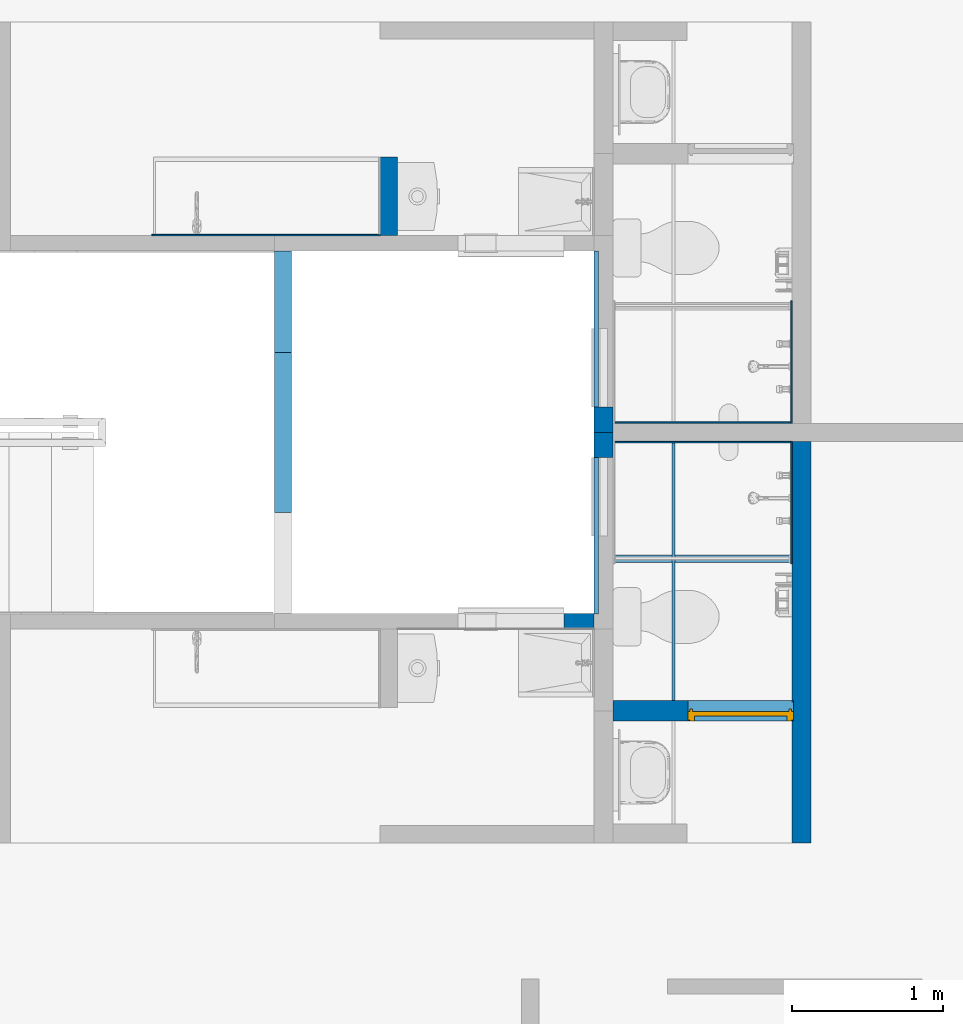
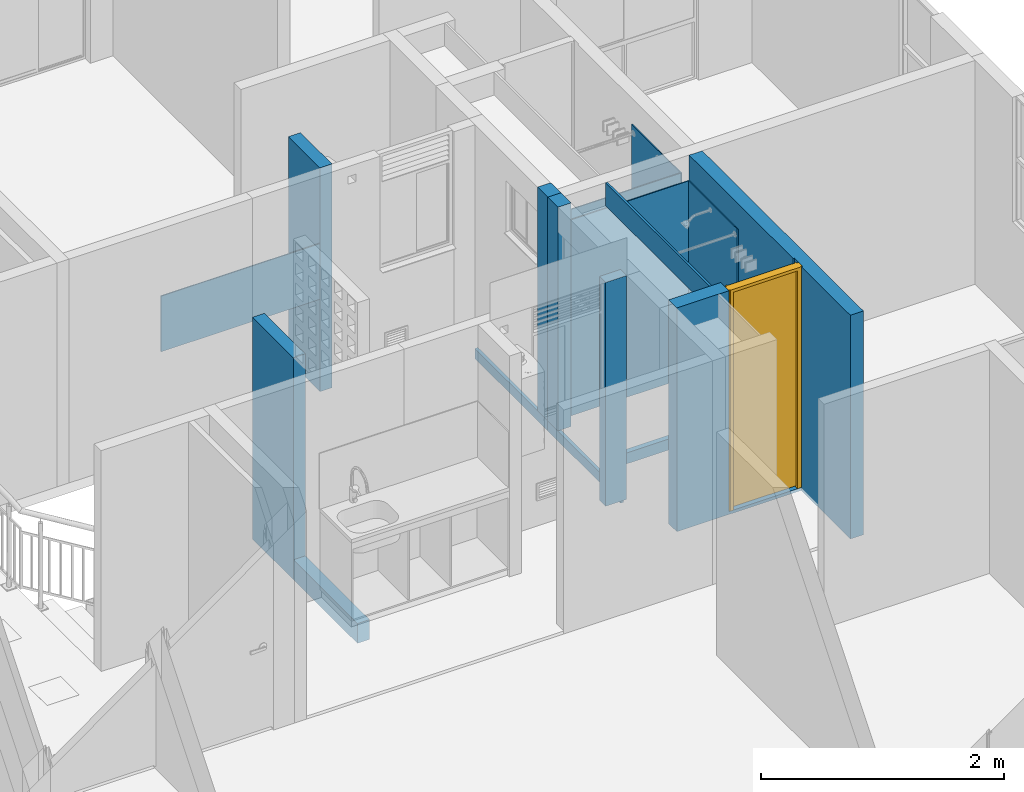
# One storey, part 14 of 47: 17 walls, 1 door, 2 openings.
"""IFC4 building model written with IfcOpenShell, lengths in metres."""

from ifc_helpers import new_model, entity, si_unit, converted_unit, derived_unit, direction, frame, origin, place, context, subcontext, project, spatial, indexed_curve, outline, extrude, polygons, source, transform, mapped, material, constituent, constituent_set, type_object, type_shapes, element, fill, save


model = new_model("IFC4")

# Units and contexts
model_context = context("Model", 3, precision=1e-05, world=origin(), true_north=direction((6.123031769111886e-17, 1.0)))
body_context = subcontext(model_context, "Body", "Model", "MODEL_VIEW")
ifc_project = project(units=[si_unit("LENGTHUNIT", "METRE"), si_unit("AREAUNIT", "SQUARE_METRE"), si_unit("VOLUMEUNIT", "CUBIC_METRE"), converted_unit("PLANEANGLEUNIT", "DEGREE", entity("IfcRatioMeasure", 0.017453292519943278), si_unit("PLANEANGLEUNIT", "RADIAN"), dimensions=[0, 0, 0, 0, 0, 0, 0]), si_unit("MASSUNIT", "GRAM", prefix="KILO"), derived_unit("MASSDENSITYUNIT", [(si_unit("MASSUNIT", "GRAM", prefix="KILO"), 1), (si_unit("LENGTHUNIT", "METRE"), -3)]), derived_unit("IONCONCENTRATIONUNIT", [(si_unit("MASSUNIT", "GRAM", prefix="KILO"), 1), (si_unit("LENGTHUNIT", "METRE"), -3)]), derived_unit("MOMENTOFINERTIAUNIT", [(si_unit("LENGTHUNIT", "METRE"), 4)]), si_unit("TIMEUNIT", "SECOND"), si_unit("FREQUENCYUNIT", "HERTZ"), si_unit("THERMODYNAMICTEMPERATUREUNIT", "DEGREE_CELSIUS"), derived_unit("THERMALTRANSMITTANCEUNIT", [(si_unit("MASSUNIT", "GRAM", prefix="KILO"), 1), (si_unit("THERMODYNAMICTEMPERATUREUNIT", "KELVIN"), -1), (si_unit("TIMEUNIT", "SECOND"), -3)]), derived_unit("THERMALCONDUCTANCEUNIT", [(si_unit("MASSUNIT", "GRAM", prefix="KILO"), 1), (si_unit("THERMODYNAMICTEMPERATUREUNIT", "KELVIN"), -1), (si_unit("TIMEUNIT", "SECOND"), -3), (si_unit("LENGTHUNIT", "METRE"), 1)]), derived_unit("VOLUMETRICFLOWRATEUNIT", [(si_unit("LENGTHUNIT", "METRE"), 3), (si_unit("TIMEUNIT", "SECOND"), -1)]), derived_unit("MASSFLOWRATEUNIT", [(si_unit("MASSUNIT", "GRAM", prefix="KILO"), 1), (si_unit("TIMEUNIT", "SECOND"), -1)]), derived_unit("ROTATIONALFREQUENCYUNIT", [(si_unit("TIMEUNIT", "SECOND"), -1)]), si_unit("ELECTRICCURRENTUNIT", "AMPERE"), si_unit("ELECTRICVOLTAGEUNIT", "VOLT"), si_unit("POWERUNIT", "WATT"), si_unit("FORCEUNIT", "NEWTON", prefix="KILO"), si_unit("ILLUMINANCEUNIT", "LUX"), si_unit("LUMINOUSFLUXUNIT", "LUMEN"), si_unit("LUMINOUSINTENSITYUNIT", "CANDELA"), derived_unit("USERDEFINED", [(si_unit("MASSUNIT", "GRAM", prefix="KILO"), -1), (si_unit("LENGTHUNIT", "METRE"), -2), (si_unit("TIMEUNIT", "SECOND"), 3), (si_unit("LUMINOUSFLUXUNIT", "LUMEN"), 1)]), derived_unit("USERDEFINED", [(si_unit("MASSUNIT", "GRAM", prefix="KILO"), 1), (si_unit("TIMEUNIT", "SECOND"), -3), (si_unit("LENGTHUNIT", "METRE"), 3), (si_unit("ELECTRICCURRENTUNIT", "AMPERE"), -2)]), derived_unit("SOUNDPOWERUNIT", [(si_unit("MASSUNIT", "GRAM", prefix="KILO"), 1), (si_unit("TIMEUNIT", "SECOND"), -3), (si_unit("LENGTHUNIT", "METRE"), 2)]), derived_unit("SOUNDPRESSUREUNIT", [(si_unit("MASSUNIT", "GRAM", prefix="KILO"), 1), (si_unit("LENGTHUNIT", "METRE"), -1), (si_unit("TIMEUNIT", "SECOND"), -2)]), derived_unit("LINEARVELOCITYUNIT", [(si_unit("LENGTHUNIT", "METRE"), 1), (si_unit("TIMEUNIT", "SECOND"), -1)]), si_unit("PRESSUREUNIT", "PASCAL"), derived_unit("USERDEFINED", [(si_unit("MASSUNIT", "GRAM", prefix="KILO"), 1), (si_unit("LENGTHUNIT", "METRE"), -2), (si_unit("TIMEUNIT", "SECOND"), -2)]), derived_unit("LINEARFORCEUNIT", [(si_unit("MASSUNIT", "GRAM", prefix="KILO"), 1), (si_unit("TIMEUNIT", "SECOND"), -2)]), derived_unit("PLANARFORCEUNIT", [(si_unit("MASSUNIT", "GRAM", prefix="KILO"), 1), (si_unit("LENGTHUNIT", "METRE"), -1), (si_unit("TIMEUNIT", "SECOND"), -2)]), derived_unit("SPECIFICHEATCAPACITYUNIT", [(si_unit("THERMODYNAMICTEMPERATUREUNIT", "KELVIN"), -1), (si_unit("LENGTHUNIT", "METRE"), 2), (si_unit("TIMEUNIT", "SECOND"), -2)]), derived_unit("HEATINGVALUEUNIT", [(si_unit("LENGTHUNIT", "METRE"), 2), (si_unit("TIMEUNIT", "SECOND"), -2)]), derived_unit("VAPORPERMEABILITYUNIT", [(si_unit("LENGTHUNIT", "METRE"), -1), (si_unit("TIMEUNIT", "SECOND"), 1)]), derived_unit("DYNAMICVISCOSITYUNIT", [(si_unit("MASSUNIT", "GRAM", prefix="KILO"), 1), (si_unit("TIMEUNIT", "SECOND"), -1), (si_unit("LENGTHUNIT", "METRE"), -1)]), derived_unit("THERMALEXPANSIONCOEFFICIENTUNIT", [(si_unit("THERMODYNAMICTEMPERATUREUNIT", "KELVIN"), -1)]), derived_unit("MODULUSOFELASTICITYUNIT", [(si_unit("MASSUNIT", "GRAM", prefix="KILO"), 1), (si_unit("LENGTHUNIT", "METRE"), -1), (si_unit("TIMEUNIT", "SECOND"), -2)]), derived_unit("ISOTHERMALMOISTURECAPACITYUNIT", [(si_unit("LENGTHUNIT", "METRE"), 3), (si_unit("MASSUNIT", "GRAM", prefix="KILO"), -1)]), derived_unit("MOISTUREDIFFUSIVITYUNIT", [(si_unit("TIMEUNIT", "SECOND"), -1), (si_unit("LENGTHUNIT", "METRE"), 2)])], contexts=[model_context])

# Site, building, storey
site_placement = place(None, origin())
site = spatial("IfcSite", under=ifc_project, at=site_placement, Name="Default", CompositionType="ELEMENT")
building_placement = place(site_placement, origin())
building = spatial("IfcBuilding", under=site, at=building_placement, CompositionType="ELEMENT")
storey_placement = place(building_placement, frame((0.0, 0.0, 11.750000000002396)))
storey = spatial("IfcBuildingStorey", under=building, at=storey_placement, Name="Nivel 6", CompositionType="ELEMENT", Elevation=11.750000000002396)

# Walls
ifc_material_1 = material(Name="Ladrillo claro (Aire)", Category="Materials")
wall_type_1 = type_object("IfcWallType", Name="Basic Wall:B2010 - 0.115m - Muro interior en mampostería - Ladrillo", PredefinedType="STANDARD")
wall_1_placement = place(storey_placement, frame((12.500000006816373, -5.897500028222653, -1.1750000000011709), z_axis=(0.0, 0.0, 1.0), x_axis=(0.0, 1.0, 0.0)))
element("IfcWall", 1, at=wall_1_placement, inside=storey, type_object=wall_type_1, material=ifc_material_1, Name="Basic Wall:B2010 - 0.115m - Muro interior en mampostería - Ladrillo", ObjectType="Basic Wall:B2010 - 0.115m - Muro interior en mampostería - Ladrillo", PredefinedType="NOTDEFINED", context=body_context, shape_type="SweptSolid", body=[
    extrude(outline(indexed_curve([(0.6719999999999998, 0.05749999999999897), (-1.0377476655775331e-16, 0.057499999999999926), (1.0377476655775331e-16, -0.057499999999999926), (0.672, -0.05750000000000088), (0.6719999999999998, 0.05749999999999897)], self_intersect=False)), origin(), (0.0, 0.0, 1.0), 2.230000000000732),
])
wall_2_placement = place(storey_placement, frame((12.500000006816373, -6.954905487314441, -1.1750000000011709), z_axis=(0.0, 0.0, 1.0), x_axis=(0.0, 1.0, 0.0)))
element("IfcWall", 2, at=wall_2_placement, inside=storey, type_object=wall_type_1, material=ifc_material_1, Name="Basic Wall:B2010 - 0.115m - Muro interior en mampostería - Ladrillo", ObjectType="Basic Wall:B2010 - 0.115m - Muro interior en mampostería - Ladrillo", PredefinedType="NOTDEFINED", context=body_context, shape_type="SweptSolid", body=[
    extrude(outline(indexed_curve([(1.057405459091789, 0.057499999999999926), (-1.1776912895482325e-16, 0.057499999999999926), (1.1776912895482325e-16, -0.057499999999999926), (1.0574054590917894, -0.057499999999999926), (1.057405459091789, 0.057499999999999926)], self_intersect=False)), origin(), (0.0, 0.0, 1.0), 0.20000000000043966),
])

# Wall, opening
ifc_material_2 = material(Name="Pañete", Category="Materials")
ifc_constituent_1 = constituent(ifc_material_2, Name="Pañete", Category="Materials")
ifc_constituent_2 = constituent(ifc_material_1, Name="Ladrillo claro (Aire)", Category="Materials")
ifc_constituent_set_1 = constituent_set(constituents=[ifc_constituent_1, ifc_constituent_2], Name="Basic Wall:B2010 - 0.115m - Muro interior en mampostería - Ladrillo + Pañete")
wall_type_2 = type_object("IfcWallType", Name="Basic Wall:B2010 - 0.115m - Muro interior en mampostería - Ladrillo + Pañete", PredefinedType="STANDARD", material=ifc_constituent_set_1)
wall_3_placement = place(storey_placement, frame((15.92999894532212, -9.139999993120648, 0.0), z_axis=(0.0, 0.0, 1.0), x_axis=(0.0, 1.0, 0.0)))
wall_3 = element("IfcWall", 3, at=wall_3_placement, inside=storey, type_object=wall_type_2, material=ifc_constituent_set_1, Name="Basic Wall:B2010 - 0.115m - Muro interior en mampostería - Ladrillo + Pañete", ObjectType="Basic Wall:B2010 - 0.115m - Muro interior en mampostería - Ladrillo + Pañete", PredefinedType="NOTDEFINED", context=body_context, shape_type="SweptSolid", body=[
    extrude(outline(indexed_curve([(-0.7550000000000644, -1.4629166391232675), (1.4949999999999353, -1.4629166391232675), (1.4949999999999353, 0.25208332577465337), (-0.7249999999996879, 0.25208332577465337), (-0.7249999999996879, 0.38708332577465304), (1.4949999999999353, 0.38708332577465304), (1.4949999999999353, 1.1920833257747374), (-0.7550000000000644, 1.1920833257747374), (-0.7550000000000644, 0.38708332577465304), (-0.7550000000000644, 0.25208332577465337), (-0.7550000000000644, -0.6629166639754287), (-0.7550000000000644, -0.7129166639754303), (-0.7550000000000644, -1.4629166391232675)], self_intersect=False)), frame((1.1920833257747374, 0.06250000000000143, 0.7550000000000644), z_axis=(0.0, -1.0, 0.0), x_axis=(0.0, 0.0, 1.0)), (0.0, 0.0, 1.0), 0.009999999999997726),
    extrude(outline(indexed_curve([(-0.05750000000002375, -1.3274999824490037), (0.0574999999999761, -1.3274999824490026), (0.05750000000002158, 1.3274999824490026), (-0.05749999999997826, 1.3274999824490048), (-0.05750000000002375, -1.3274999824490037)], self_intersect=False)), frame((1.3274999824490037, -0.00499999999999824, 0.0), z_axis=(0.0, 0.0, 1.0), x_axis=(0.0, 1.0, 0.0)), (0.0, 0.0, 1.0), 2.2499999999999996),
])
opening_1_placement = place(wall_3_placement, origin())
element("IfcOpeningElement", 4, at=opening_1_placement, cuts=wall_3, Name="Basic Wall:B2010 - 0.115m - Muro interior en mampostería - Ladrillo + Pañete", PredefinedType="OPENING", context=body_context, shape_type="SweptSolid", body=[
    extrude(outline(indexed_curve([(-0.06749999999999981, -1.1099999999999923), (0.06749999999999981, -1.1099999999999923), (0.06749999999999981, 1.1099999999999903), (-0.06749999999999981, 1.1099999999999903), (-0.06749999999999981, -1.1099999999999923)], self_intersect=False)), frame((0.8725000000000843, 0.05249999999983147, 1.140000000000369), z_axis=(0.0, 1.0, 0.0), x_axis=(-1.0, 0.0, 0.0)), (0.0, 0.0, 1.0), 0.7000000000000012),
])

# Wall, opening, door
ifc_constituent_3 = constituent(ifc_material_2, Name="Pañete", Category="Materials")
ifc_material_3 = material(Name="LADRILLO CLARO", Category="Materials")
ifc_constituent_4 = constituent(ifc_material_3, Name="LADRILLO CLARO", Category="Materials")
ifc_constituent_5 = constituent(ifc_material_2, Name="Pañete (2)", Category="Materials")
ifc_constituent_set_2 = constituent_set(constituents=[ifc_constituent_3, ifc_constituent_4, ifc_constituent_5], Name="Basic Wall:B2010 - 0.115m - MI  mampostería no estructural - Pañete + Ladrillo + Pañete")
wall_type_3 = type_object("IfcWallType", Name="Basic Wall:B2010 - 0.115m - MI  mampostería no estructural - Pañete + Ladrillo + Pañete", PredefinedType="STANDARD", material=ifc_constituent_set_2)
wall_4_placement = place(storey_placement, frame((14.68250000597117, -8.267499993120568, 0.0)))
wall_4 = element("IfcWall", 5, at=wall_4_placement, inside=storey, type_object=wall_type_3, material=ifc_constituent_set_2, Name="Basic Wall:B2010 - 0.115m - MI  mampostería no estructural - Pañete + Ladrillo + Pañete", ObjectType="Basic Wall:B2010 - 0.115m - MI  mampostería no estructural - Pañete + Ladrillo + Pañete", PredefinedType="NOTDEFINED", context=body_context, shape_type="SweptSolid", body=[
    extrude(outline(indexed_curve([(-0.7600000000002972, -0.5599992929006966), (1.4900000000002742, -0.5599992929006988), (1.4900000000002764, -0.06500035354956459), (-0.7299999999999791, -0.06500035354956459), (-0.729999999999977, 0.6249996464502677), (-0.760000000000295, 0.6249996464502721), (-0.7600000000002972, -0.5599992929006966)], self_intersect=False)), frame((0.559999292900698, 0.05750000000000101, 0.760000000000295), z_axis=(0.0, 1.0, 0.0), x_axis=(0.0, 0.0, 1.0)), (0.0, 0.0, 1.0), 0.009999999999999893),
    extrude(outline(indexed_curve([(-1.1325000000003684, -0.5199994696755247), (1.117500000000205, -0.5199994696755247), (1.117500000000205, -0.12999946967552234), (1.117500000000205, -0.10999946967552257), (1.117500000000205, -0.025000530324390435), (-1.1025000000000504, -0.025000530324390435), (-1.1025000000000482, 0.6649994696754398), (-1.1325000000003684, 0.6649994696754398), (-1.1325000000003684, -0.5199994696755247)], self_intersect=False)), frame((0.5199994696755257, -0.06749999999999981, 1.1325000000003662), z_axis=(0.0, 1.0, 0.0), x_axis=(0.0, 0.0, 1.0)), (0.0, 0.0, 1.0), 0.009999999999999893),
    extrude(outline(indexed_curve([(-0.7600000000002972, -0.5633326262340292), (1.4900000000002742, -0.5633326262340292), (1.4900000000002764, -0.068333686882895), (-0.7299999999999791, -0.068333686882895), (-0.729999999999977, 0.631666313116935), (-0.760000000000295, 0.631666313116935), (-0.7600000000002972, -0.5633326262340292)], self_intersect=False)), frame((0.5633326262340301, -0.05750000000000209, 0.760000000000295), z_axis=(0.0, 1.0, 0.0), x_axis=(0.0, 0.0, 1.0)), (0.0, 0.0, 1.0), 0.11499999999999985),
])
opening_2_placement = place(wall_4_placement, frame((0.49499893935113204, -0.06749999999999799, 0.0299999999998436)))
opening_2 = element("IfcOpeningElement", 6, at=opening_2_placement, cuts=wall_4, Name="C1030 - Puerta batiente - Madera+Aluminio:C1030 - 0.70 x 2.22 - Puerta batiente - Madera+ Metal:1", PredefinedType="OPENING", context=body_context, shape_type="SweptSolid", body=[
    extrude(outline(indexed_curve([(-2.8961849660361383e-19, 1.218225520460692e-15), (2.2199999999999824, 1.218225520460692e-15), (2.2199999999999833, 0.7000000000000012), (1.438182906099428e-16, 0.7000000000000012), (-2.8961849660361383e-19, 1.218225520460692e-15)], self_intersect=False)), frame((0.0, 0.0, 0.0), z_axis=(0.0, 1.0, 0.0), x_axis=(0.0, 0.0, 1.0)), (0.0, 0.0, 1.0), 0.13499999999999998),
])
ifc_material_4 = material(Name="<Unnamed>")
door_type = type_object("IfcDoorType", Name="C1030 - Puerta batiente - Madera+Aluminio:C1030 - 0.70 x 2.22 - Puerta batiente - Madera+ Metal", OperationType="SINGLE_SWING_RIGHT", PredefinedType="DOOR", material=ifc_material_4)
shared_shape = source(origin(), body_context, "Body", "Tessellation", [
    polygons([(0.030000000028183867, 0.06499999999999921, 0.009880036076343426), (0.6699999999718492, 0.06499999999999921, 0.009880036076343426), (0.6699999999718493, 0.0324999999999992, 0.009880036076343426), (0.030000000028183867, 0.0324999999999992, 0.009880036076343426), (0.030000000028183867, 0.06499999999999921, 2.2050000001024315), (0.030000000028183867, 0.0324999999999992, 2.2050000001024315), (0.6699999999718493, 0.0324999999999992, 2.2050000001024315), (0.6699999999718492, 0.06499999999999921, 2.2050000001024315)], [[[1, 2, 3, 4]], [[5, 1, 4, 6]], [[6, 4, 3, 7]], [[7, 3, 2, 8]], [[8, 2, 1, 5]], [[5, 6, 7, 8]]], closed=True),
    polygons([(0.015000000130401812, 0.0649999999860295, 0.0), (0.015000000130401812, 0.07999999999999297, 0.0), (0.030000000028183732, 0.07999999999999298, 0.0), (0.030000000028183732, 0.04000000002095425, 0.0), (0.045000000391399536, 0.04000000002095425, 0.0), (0.045000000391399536, -1.6919798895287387e-17, 0.0), (0.015000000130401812, -5.075939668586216e-17, 0.0), (0.015000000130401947, 0.007499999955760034, 0.0), (1.651372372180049e-14, 0.0074999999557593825, 0.0), (1.651372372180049e-14, 0.0649999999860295, 0.0), (1.651372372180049e-14, 0.0074999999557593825, 2.2199999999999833), (0.015000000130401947, 0.007499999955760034, 2.2199999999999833), (0.015000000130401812, 0.0649999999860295, 2.2199999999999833), (1.651372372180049e-14, 0.0649999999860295, 2.2199999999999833), (0.6849999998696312, 0.06499999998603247, 0.0), (0.7000000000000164, 0.06499999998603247, 0.0), (0.7000000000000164, 0.007499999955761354, 0.0), (0.6849999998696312, 0.007499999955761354, 0.0), (0.6849999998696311, 0.0, 0.0), (0.6549999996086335, 0.0, 0.0), (0.6549999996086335, 0.04000000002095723, 0.0), (0.6699999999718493, 0.04000000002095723, 0.0), (0.6699999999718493, 0.07999999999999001, 0.0), (0.6849999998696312, 0.07999999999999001, 0.0), (0.7000000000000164, 0.06499999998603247, 2.2199999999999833), (0.6849999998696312, 0.06499999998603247, 2.2199999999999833), (0.6849999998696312, 0.007499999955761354, 2.2199999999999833), (0.7000000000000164, 0.007499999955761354, 2.2199999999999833), (0.6549999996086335, 0.0, 2.189999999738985), (0.6549999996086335, 0.03250000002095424, 2.189999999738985), (0.6549999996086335, 0.03250000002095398, 2.2050000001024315), (0.6549999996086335, 0.04000000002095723, 2.2050000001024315), (0.045000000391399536, 0.04000000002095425, 2.2050000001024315), (0.045000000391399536, 0.03250000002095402, 2.2050000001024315), (0.045000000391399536, 0.032500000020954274, 2.189999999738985), (0.045000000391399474, -1.6919798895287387e-17, 2.189999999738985), (0.6699999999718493, 0.04000000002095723, 2.2050000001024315), (0.6699999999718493, 0.07249999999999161, 2.2050000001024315), (0.6699999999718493, 0.07249999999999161, 2.2199999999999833), (0.6699999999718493, 0.07999999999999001, 2.2199999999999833), (0.030000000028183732, 0.07999999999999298, 2.2199999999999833), (0.030000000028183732, 0.07249999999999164, 2.2199999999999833), (0.030000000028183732, 0.07249999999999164, 2.2050000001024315), (0.030000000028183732, 0.04000000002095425, 2.2050000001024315), (0.6849999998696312, 0.07999999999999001, 2.2199999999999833), (0.6849999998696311, 0.0, 2.2199999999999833), (0.015000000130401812, -5.075939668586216e-17, 2.2199999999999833), (0.015000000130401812, 0.07999999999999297, 2.2199999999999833)], [[[1, 2, 3, 4, 5, 6, 7, 8, 9, 10]], [[11, 9, 8, 12]], [[13, 1, 10, 14]], [[15, 16, 17, 18, 19, 20, 21, 22, 23, 24]], [[25, 16, 15, 26]], [[27, 18, 17, 28]], [[20, 29, 30, 31, 32, 21]], [[5, 33, 34, 35, 36, 6]], [[22, 37, 38, 39, 40, 23]], [[3, 41, 42, 43, 44, 4]], [[28, 17, 16, 25]], [[14, 10, 9, 11]], [[26, 15, 24, 45]], [[45, 24, 23, 40]], [[21, 32, 37, 22]], [[19, 46, 47, 7, 6, 36, 29, 20]], [[46, 19, 18, 27]], [[12, 8, 7, 47]], [[48, 2, 1, 13]], [[26, 45, 40, 39, 42, 41, 48, 13, 14, 11, 12, 47, 46, 27, 28, 25]], [[38, 37, 32, 31, 34, 33, 44, 43]], [[36, 35, 30, 29]], [[4, 44, 33, 5]], [[41, 3, 2, 48]], [[35, 34, 31, 30]], [[43, 42, 39, 38]]], closed=True),
])
type_shapes(door_type, [shared_shape])
door_placement = place(opening_2_placement, origin())
door = element("IfcDoor", 7, at=door_placement, inside=storey, type_object=door_type, material=ifc_material_4, Name="C1030 - Puerta batiente - Madera+Aluminio:C1030 - 0.70 x 2.22 - Puerta batiente - Madera+ Metal", ObjectType="C1030 - Puerta batiente - Madera+Aluminio:C1030 - 0.70 x 2.22 - Puerta batiente - Madera+ Metal", OperationType="NOTDEFINED", OverallHeight=2.2199999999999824, OverallWidth=0.7000000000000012, PredefinedType="DOOR", context=body_context, shape_type="MappedRepresentation", body=[
    mapped(shared_shape, transform((0.0, 0.0, 0.0), scale=1.0)),
])
fill(opening_2, door)

# Walls
ifc_material_5 = material(Name="PINTURA BLANCA PARA EXTERIORES", Category="Materials")
ifc_constituent_6 = constituent(ifc_material_5, Name="PINTURA BLANCA PARA EXTERIORES", Category="Materials")
ifc_material_6 = material(Name="Concreto - Fundido in situ", Category="Materials")
ifc_constituent_7 = constituent(ifc_material_6, Name="Concreto - Fundido in situ", Category="Materials")
ifc_constituent_set_3 = constituent_set(constituents=[ifc_constituent_6, ifc_constituent_7], Name="Basic Wall:B2010 - 0.10m - MI no estructural- Concreto + repello+ pintura blanca")
wall_type_4 = type_object("IfcWallType", Name="Basic Wall:B2010 - 0.10m - MI no estructural- Concreto + repello+ pintura blanca", PredefinedType="STANDARD", material=ifc_constituent_set_3)
wall_5_placement = place(storey_placement, frame((14.557500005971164, -7.675000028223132, 0.0), z_axis=(0.0, 0.0, 1.0), x_axis=(-1.0, 0.0, 0.0)))
element("IfcWall", 8, at=wall_5_placement, inside=storey, type_object=wall_type_4, material=ifc_constituent_set_3, Name="Basic Wall:B2010 - 0.10m - MI no estructural- Concreto + repello+ pintura blanca", ObjectType="Basic Wall:B2010 - 0.10m - MI no estructural- Concreto + repello+ pintura blanca", PredefinedType="NOTDEFINED", context=body_context, shape_type="SweptSolid", body=[
    extrude(outline(indexed_curve([(-0.0004999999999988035, -0.10000000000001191), (0.0005000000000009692, -0.10000000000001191), (0.0004999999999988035, 0.10000000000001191), (-0.0005000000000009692, 0.10000000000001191), (-0.0004999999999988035, -0.10000000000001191)], self_intersect=False)), frame((0.10000000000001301, -0.04999999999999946, 0.0), z_axis=(0.0, 0.0, 1.0), x_axis=(0.0, 1.0, 0.0)), (0.0, 0.0, 1.0), 2.2499999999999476),
    extrude(outline(indexed_curve([(-0.050000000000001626, -0.10000000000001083), (0.04999999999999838, -0.10000000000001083), (0.050000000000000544, 0.10000000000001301), (-0.04999999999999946, 0.10000000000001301), (-0.050000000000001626, -0.10000000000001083)], self_intersect=False)), frame((0.1000000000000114, 0.0004999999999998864, 0.0), z_axis=(0.0, 0.0, 1.0), x_axis=(0.0, -1.0, 0.0)), (0.0, 0.0, 1.0), 2.2499999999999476),
])
wall_type_5 = type_object("IfcWallType", Name="Basic Wall:B2010 - 0.115m - MI mampostería no estructural - Ladrillo", PredefinedType="STANDARD")
wall_6_placement = place(storey_placement, frame((13.200000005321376, -4.605000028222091, 0.0), z_axis=(0.0, 0.0, 1.0), x_axis=(0.0, -1.0, 0.0)))
element("IfcWall", 9, at=wall_6_placement, inside=storey, type_object=wall_type_5, material=ifc_material_3, Name="Basic Wall:B2010 - 0.115m - MI mampostería no estructural - Ladrillo", ObjectType="Basic Wall:B2010 - 0.115m - MI mampostería no estructural - Ladrillo", PredefinedType="NOTDEFINED", context=body_context, shape_type="SweptSolid", body=[
    extrude(outline(indexed_curve([(0.5195000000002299, 0.0574999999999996), (-2.0425946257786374e-16, 0.057499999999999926), (2.0425946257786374e-16, -0.057499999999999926), (0.5195000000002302, -0.057500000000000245), (0.5195000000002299, 0.0574999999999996)], self_intersect=False)), origin(), (0.0, 0.0, 1.0), 2.2500000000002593),
])
ifc_material_7 = material(Name="Ceramica 0.25m x 0.35m", Category="Materials")
wall_type_6 = type_object("IfcWallType", Name="Basic Wall:C2010 - 0.25 x 0.35 - Enchape cerámico", PredefinedType="STANDARD")
wall_7_placement = place(storey_placement, frame((15.862498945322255, -6.365000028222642, 0.029999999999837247), z_axis=(0.0, 0.0, 1.0), x_axis=(0.0, 1.0, 0.0)))
element("IfcWall", 10, at=wall_7_placement, inside=storey, type_object=wall_type_6, material=ifc_material_7, Name="Basic Wall:C2010 - 0.25 x 0.35 - Enchape cerámico", ObjectType="Basic Wall:C2010 - 0.25 x 0.35 - Enchape cerámico", PredefinedType="NOTDEFINED", context=body_context, shape_type="SweptSolid", body=[
    extrude(outline(indexed_curve([(0.8099999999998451, 0.005000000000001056), (-1.654422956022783e-19, 0.005000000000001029), (1.654422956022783e-19, -0.005000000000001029), (0.8099999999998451, -0.005000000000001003), (0.8099999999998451, 0.005000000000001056)], self_intersect=False)), origin(), (0.0, 0.0, 1.0), 1.9700000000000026),
])
wall_8_placement = place(storey_placement, frame((15.857498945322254, -6.360000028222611, 0.029999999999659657), z_axis=(0.0, 0.0, 1.0), x_axis=(-1.0, 0.0, 0.0)))
element("IfcWall", 11, at=wall_8_placement, inside=storey, type_object=wall_type_6, material=ifc_material_7, Name="Basic Wall:C2010 - 0.25 x 0.35 - Enchape cerámico", ObjectType="Basic Wall:C2010 - 0.25 x 0.35 - Enchape cerámico", PredefinedType="NOTDEFINED", context=body_context, shape_type="SweptSolid", body=[
    extrude(outline(indexed_curve([(1.1649989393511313, 0.004999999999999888), (-9.047226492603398e-18, 0.004999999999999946), (9.047226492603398e-18, -0.004999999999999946), (1.1649989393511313, -0.0050000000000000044), (1.1649989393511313, 0.004999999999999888)], self_intersect=False)), origin(), (0.0, 0.0, 1.0), 1.9700000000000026),
])
wall_9_placement = place(storey_placement, frame((15.862498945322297, -6.485000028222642, 0.029999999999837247), z_axis=(0.0, 0.0, 1.0), x_axis=(0.0, -1.0, 0.0)))
element("IfcWall", 12, at=wall_9_placement, inside=storey, type_object=wall_type_6, material=ifc_material_7, Name="Basic Wall:C2010 - 0.25 x 0.35 - Enchape cerámico", ObjectType="Basic Wall:C2010 - 0.25 x 0.35 - Enchape cerámico", PredefinedType="NOTDEFINED", context=body_context, shape_type="SweptSolid", body=[
    extrude(outline(indexed_curve([(0.8100000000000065, 0.005000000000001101), (-4.468811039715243e-19, 0.005000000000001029), (4.468811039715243e-19, -0.005000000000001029), (0.8100000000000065, -0.005000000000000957), (0.8100000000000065, 0.005000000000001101)], self_intersect=False)), origin(), (0.0, 0.0, 1.0), 1.9700000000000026),
])
wall_10_placement = place(storey_placement, frame((15.857498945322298, -6.490000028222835, 0.029999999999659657), z_axis=(0.0, 0.0, 1.0), x_axis=(-1.0, 0.0, 0.0)))
element("IfcWall", 13, at=wall_10_placement, inside=storey, type_object=wall_type_6, material=ifc_material_7, Name="Basic Wall:C2010 - 0.25 x 0.35 - Enchape cerámico", ObjectType="Basic Wall:C2010 - 0.25 x 0.35 - Enchape cerámico", PredefinedType="NOTDEFINED", context=body_context, shape_type="SweptSolid", body=[
    extrude(outline(indexed_curve([(1.1649989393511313, 0.0050000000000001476), (8.43490309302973e-18, 0.004999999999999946), (-8.43490309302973e-18, -0.004999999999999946), (1.1649989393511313, -0.004999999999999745), (1.1649989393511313, 0.0050000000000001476)], self_intersect=False)), origin(), (0.0, 0.0, 1.0), 1.9700000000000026),
])
ifc_material_8 = material(Name="0 muro divisorio", Category="Materials")
wall_type_7 = type_object("IfcWallType", Name="Basic Wall:B2010 - 0.05m - Poyo para duchas - Concreto", PredefinedType="STANDARD")
wall_11_placement = place(storey_placement, frame((15.86749894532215, -7.260000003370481, 0.0), z_axis=(0.0, 0.0, 1.0), x_axis=(-1.0, 0.0, 0.0)))
element("IfcWall", 14, at=wall_11_placement, inside=storey, type_object=wall_type_7, material=ifc_material_8, Name="Basic Wall:B2010 - 0.05m - Poyo para duchas - Concreto", ObjectType="Basic Wall:B2010 - 0.05m - Poyo para duchas - Concreto", PredefinedType="NOTDEFINED", context=body_context, shape_type="SweptSolid", body=[
    extrude(outline(indexed_curve([(1.174998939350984, 0.024999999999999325), (7.772420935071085e-17, 0.02499999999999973), (-7.772420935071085e-17, -0.02499999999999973), (1.1749989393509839, -0.025000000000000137), (1.174998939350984, 0.024999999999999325)], self_intersect=False)), origin(), (0.0, 0.0, 1.0), 0.1100000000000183),
])
ifc_material_9 = material(Name="Plasterboard", Category="Materials")
wall_type_8 = type_object("IfcWallType", Name="Basic Wall:C1070 - 0.02m - Plafón - Drywall", PredefinedType="STANDARD")
wall_12_placement = place(storey_placement, frame((15.082500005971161, -6.485000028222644, 2.019999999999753), z_axis=(0.0, 0.0, 1.0), x_axis=(0.0, -1.0, 0.0)))
element("IfcWall", 15, at=wall_12_placement, inside=storey, type_object=wall_type_8, material=ifc_material_9, Name="Basic Wall:C1070 - 0.02m - Plafón - Drywall", ObjectType="Basic Wall:C1070 - 0.02m - Plafón - Drywall", PredefinedType="NOTDEFINED", context=body_context, shape_type="SweptSolid", body=[
    extrude(outline(indexed_curve([(1.714999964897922, 0.009999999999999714), (1.366511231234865e-17, 0.009999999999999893), (-1.366511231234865e-17, -0.009999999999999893), (1.714999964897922, -0.01000000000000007), (1.714999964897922, 0.009999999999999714)], self_intersect=False)), origin(), (0.0, 0.0, 1.0), 0.23000000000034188),
])
ifc_material_10 = material(Name="Ceramica Salpicadero 0.28m x 0.45m", Category="Materials")
wall_type_9 = type_object("IfcWallType", Name="Basic Wall:C2010 - 0.28 x 0.45 - Salpicadero - Cerámica", PredefinedType="STANDARD")
wall_13_placement = place(storey_placement, frame((13.142500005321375, -5.120000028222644, 0.9299999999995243), z_axis=(0.0, 0.0, 1.0), x_axis=(-1.0, 0.0, 0.0)))
element("IfcWall", 16, at=wall_13_placement, inside=storey, type_object=wall_type_9, material=ifc_material_10, Name="Basic Wall:C2010 - 0.28 x 0.45 - Salpicadero - Cerámica", ObjectType="Basic Wall:C2010 - 0.28 x 0.45 - Salpicadero - Cerámica", PredefinedType="NOTDEFINED", context=body_context, shape_type="SweptSolid", body=[
    extrude(outline(indexed_curve([(1.5100000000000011, 0.004999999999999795), (1.8429308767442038e-17, 0.004999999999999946), (-1.8429308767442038e-17, -0.004999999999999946), (1.5100000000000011, -0.005000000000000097), (1.5100000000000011, 0.004999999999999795)], self_intersect=False)), origin(), (0.0, 0.0, 1.0), 0.5599999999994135),
])
ifc_constituent_8 = constituent(ifc_material_2, Name="Pañete", Category="Materials")
ifc_constituent_9 = constituent(ifc_material_3, Name="LADRILLO CLARO", Category="Materials")
ifc_constituent_set_4 = constituent_set(constituents=[ifc_constituent_8, ifc_constituent_9], Name="Basic Wall:B2010 - 0.115m - MI  mampostería no estructural - Ladrillo + Pañete")
wall_type_10 = type_object("IfcWallType", Name="Basic Wall:B2010 - 0.115m - MI  mampostería no estructural - Ladrillo + Pañete", PredefinedType="STANDARD", material=ifc_constituent_set_4)
wall_14_placement = place(storey_placement, frame((14.620000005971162, -6.257812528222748, 0.0), z_axis=(0.0, 0.0, 1.0), x_axis=(0.0, -1.0, 0.0)))
element("IfcWall", 17, at=wall_14_placement, inside=storey, type_object=wall_type_10, material=ifc_constituent_set_4, Name="Basic Wall:B2010 - 0.115m - MI  mampostería no estructural - Ladrillo + Pañete", ObjectType="Basic Wall:B2010 - 0.115m - MI  mampostería no estructural - Ladrillo + Pañete", PredefinedType="NOTDEFINED", context=body_context, shape_type="SweptSolid", body=[
    extrude(outline(indexed_curve([(-0.005000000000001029, -0.08359375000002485), (0.004999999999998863, -0.08359375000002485), (0.005000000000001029, 0.08359375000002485), (-0.004999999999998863, 0.08359375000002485), (-0.005000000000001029, -0.08359375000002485)], self_intersect=False)), frame((0.08359375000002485, 0.05750000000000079, 0.0), z_axis=(0.0, 0.0, 1.0), x_axis=(0.0, -1.0, 0.0)), (0.0, 0.0, 1.0), 2.2500000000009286),
    extrude(outline(indexed_curve([(-0.0575000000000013, -0.08359375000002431), (0.057499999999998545, -0.08359375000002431), (0.057499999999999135, 0.08359375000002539), (-0.05750000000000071, 0.08359375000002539), (-0.0575000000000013, -0.08359375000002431)], self_intersect=False)), frame((0.08359375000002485, -0.004999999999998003, 0.0), z_axis=(0.0, 0.0, 1.0), x_axis=(0.0, 1.0, 0.0)), (0.0, 0.0, 1.0), 2.2500000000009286),
])
wall_15_placement = place(storey_placement, frame((14.620000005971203, -6.592187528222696, 0.0), z_axis=(0.0, 0.0, 1.0), x_axis=(0.0, 1.0, 0.0)))
element("IfcWall", 18, at=wall_15_placement, inside=storey, type_object=wall_type_10, material=ifc_constituent_set_4, Name="Basic Wall:B2010 - 0.115m - MI  mampostería no estructural - Ladrillo + Pañete", ObjectType="Basic Wall:B2010 - 0.115m - MI  mampostería no estructural - Ladrillo + Pañete", PredefinedType="NOTDEFINED", context=body_context, shape_type="SweptSolid", body=[
    extrude(outline(indexed_curve([(-0.004999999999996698, -0.08359375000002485), (0.005000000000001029, -0.08359375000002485), (0.004999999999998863, 0.08359375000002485), (-0.004999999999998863, 0.08359375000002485), (-0.004999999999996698, -0.08359375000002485)], self_intersect=False)), frame((0.08359375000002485, -0.057500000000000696, 0.0), z_axis=(0.0, 0.0, 1.0), x_axis=(0.0, 1.0, 0.0)), (0.0, 0.0, 1.0), 2.2500000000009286),
    extrude(outline(indexed_curve([(-0.05750000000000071, -0.08359375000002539), (0.0575000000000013, -0.08359375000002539), (0.05750000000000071, 0.08359375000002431), (-0.0575000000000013, 0.08359375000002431), (-0.05750000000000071, -0.08359375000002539)], self_intersect=False)), frame((0.08359375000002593, 0.005000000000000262, 0.0), z_axis=(0.0, 0.0, 1.0), x_axis=(0.0, -1.0, 0.0)), (0.0, 0.0, 1.0), 2.2500000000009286),
])
wall_type_11 = type_object("IfcWallType", Name="Basic Wall:B2010 - 0.03m - ME enchape  no estructural - Ladrillo", PredefinedType="STANDARD")
wall_16_placement = place(storey_placement, frame((14.57250000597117, -5.2250000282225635, -0.10000000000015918), z_axis=(0.0, 0.0, 1.0), x_axis=(0.0, -1.0, 0.0)))
element("IfcWall", 19, at=wall_16_placement, inside=storey, type_object=wall_type_11, material=ifc_material_3, Name="Basic Wall:B2010 - 0.03m - ME enchape  no estructural - Ladrillo", ObjectType="Basic Wall:B2010 - 0.03m - ME enchape  no estructural - Ladrillo", PredefinedType="NOTDEFINED", context=body_context, shape_type="SweptSolid", body=[
    extrude(outline(indexed_curve([(1.2000000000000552, 0.015000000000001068), (-2.890864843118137e-17, 0.015000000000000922), (2.890864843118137e-17, -0.015000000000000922), (1.2000000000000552, -0.015000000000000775), (1.2000000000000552, 0.015000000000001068)], self_intersect=False)), origin(), (0.0, 0.0, 1.0), 0.09999999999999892),
])
wall_17_placement = place(storey_placement, frame((14.572500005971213, -7.625000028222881, -0.10000000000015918), z_axis=(0.0, 0.0, 1.0), x_axis=(0.0, 1.0, 0.0)))
element("IfcWall", 20, at=wall_17_placement, inside=storey, type_object=wall_type_11, material=ifc_material_3, Name="Basic Wall:B2010 - 0.03m - ME enchape  no estructural - Ladrillo", ObjectType="Basic Wall:B2010 - 0.03m - ME enchape  no estructural - Ladrillo", PredefinedType="NOTDEFINED", context=body_context, shape_type="SweptSolid", body=[
    extrude(outline(indexed_curve([(1.2000000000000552, 0.015000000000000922), (2.7071678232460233e-17, 0.015000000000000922), (-2.7071678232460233e-17, -0.015000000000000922), (1.2000000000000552, -0.015000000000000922), (1.2000000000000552, 0.015000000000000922)], self_intersect=False)), origin(), (0.0, 0.0, 1.0), 0.09999999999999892),
])

save(model, "model.ifc")
